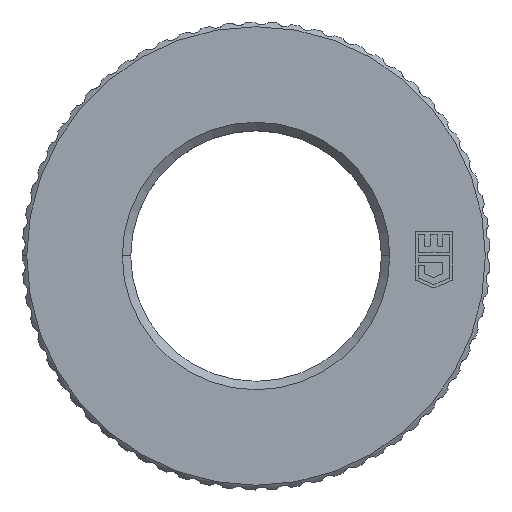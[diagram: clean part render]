
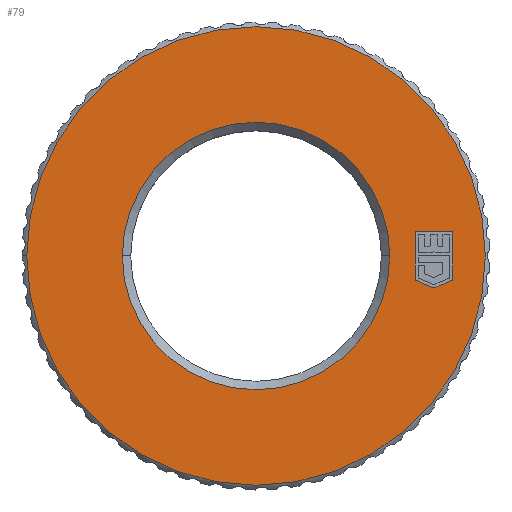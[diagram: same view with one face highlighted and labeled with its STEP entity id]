
A CAD part, top view. The second image highlights one B-rep face of the part: STEP entity #79.
In plain terms, the highlighted planar face has unit normal (0, 0, 1).
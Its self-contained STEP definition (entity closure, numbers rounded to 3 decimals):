
#2 = EDGE_CURVE ( 'NONE', #6477, #67, #2183, .T. ) ;
#3 = ORIENTED_EDGE ( 'NONE', *, *, #80, .T. ) ;
#63 = EDGE_LOOP ( 'NONE', ( #72, #3, #77, #6479, #6472 ) ) ;
#64 = ORIENTED_EDGE ( 'NONE', *, *, #491, .T. ) ;
#65 = ORIENTED_EDGE ( 'NONE', *, *, #71, .T. ) ;
#66 = EDGE_CURVE ( 'NONE', #67, #68, #2381, .T. ) ;
#67 = VERTEX_POINT ( 'NONE', #2377 ) ;
#68 = VERTEX_POINT ( 'NONE', #2376 ) ;
#69 = ORIENTED_EDGE ( 'NONE', *, *, #534, .T. ) ;
#70 = EDGE_LOOP ( 'NONE', ( #64, #65 ) ) ;
#71 = EDGE_CURVE ( 'NONE', #493, #498, #2375, .T. ) ;
#72 = ORIENTED_EDGE ( 'NONE', *, *, #66, .T. ) ;
#73 = ORIENTED_EDGE ( 'NONE', *, *, #74, .T. ) ;
#74 = EDGE_CURVE ( 'NONE', #499, #532, #2370, .T. ) ;
#75 = EDGE_LOOP ( 'NONE', ( #73, #69 ) ) ;
#76 = VERTEX_POINT ( 'NONE', #2365 ) ;
#77 = ORIENTED_EDGE ( 'NONE', *, *, #78, .T. ) ;
#78 = EDGE_CURVE ( 'NONE', #76, #6478, #2363, .T. ) ;
#79 = ADVANCED_FACE ( 'NONE', ( #2359, #2358, #2357 ), #2364, .F. ) ;
#80 = EDGE_CURVE ( 'NONE', #68, #76, #2417, .T. ) ;
#491 = EDGE_CURVE ( 'NONE', #498, #493, #3331, .T. ) ;
#493 = VERTEX_POINT ( 'NONE', #3322 ) ;
#498 = VERTEX_POINT ( 'NONE', #3314 ) ;
#499 = VERTEX_POINT ( 'NONE', #3313 ) ;
#532 = VERTEX_POINT ( 'NONE', #3376 ) ;
#534 = EDGE_CURVE ( 'NONE', #532, #499, #3439, .T. ) ;
#2180 = DIRECTION ( 'NONE',  ( -0.924, -0.383, 0. ) ) ;
#2181 = VECTOR ( 'NONE', #2180, 1000. ) ;
#2182 = CARTESIAN_POINT ( 'NONE',  ( 19., -3.41, 0. ) ) ;
#2183 = LINE ( 'NONE', #2182, #2181 ) ;
#2357 = FACE_BOUND ( 'NONE', #63, .T. ) ;
#2358 = FACE_BOUND ( 'NONE', #70, .T. ) ;
#2359 = FACE_OUTER_BOUND ( 'NONE', #75, .T. ) ;
#2360 = DIRECTION ( 'NONE',  ( 1., 0., 0. ) ) ;
#2361 = VECTOR ( 'NONE', #2360, 1000. ) ;
#2362 = CARTESIAN_POINT ( 'NONE',  ( 17., 2.59, 0. ) ) ;
#2363 = LINE ( 'NONE', #2362, #2361 ) ;
#2364 = PLANE ( 'NONE',  #2421 ) ;
#2365 = CARTESIAN_POINT ( 'NONE',  ( 17., 2.59, 0. ) ) ;
#2366 = DIRECTION ( 'NONE',  ( 1., 0., 0. ) ) ;
#2367 = DIRECTION ( 'NONE',  ( 0., 0., 1. ) ) ;
#2368 = CARTESIAN_POINT ( 'NONE',  ( 0., 0., 0. ) ) ;
#2369 = AXIS2_PLACEMENT_3D ( 'NONE', #2368, #2367, #2366 ) ;
#2370 = CIRCLE ( 'NONE', #2369, 24.5 ) ;
#2371 = DIRECTION ( 'NONE',  ( -1., 0., 0. ) ) ;
#2372 = DIRECTION ( 'NONE',  ( 0., 0., -1. ) ) ;
#2373 = CARTESIAN_POINT ( 'NONE',  ( 0., 0., 0. ) ) ;
#2374 = AXIS2_PLACEMENT_3D ( 'NONE', #2373, #2372, #2371 ) ;
#2375 = CIRCLE ( 'NONE', #2374, 14.29 ) ;
#2376 = CARTESIAN_POINT ( 'NONE',  ( 17., -2.582, 0. ) ) ;
#2377 = CARTESIAN_POINT ( 'NONE',  ( 19., -3.41, 0. ) ) ;
#2378 = DIRECTION ( 'NONE',  ( -0.924, 0.383, 0. ) ) ;
#2379 = VECTOR ( 'NONE', #2378, 1000. ) ;
#2380 = CARTESIAN_POINT ( 'NONE',  ( 19., -3.41, 0. ) ) ;
#2381 = LINE ( 'NONE', #2380, #2379 ) ;
#2414 = DIRECTION ( 'NONE',  ( 0., 1., 0. ) ) ;
#2415 = VECTOR ( 'NONE', #2414, 1000. ) ;
#2416 = CARTESIAN_POINT ( 'NONE',  ( 17., -2.582, 0. ) ) ;
#2417 = LINE ( 'NONE', #2416, #2415 ) ;
#2418 = DIRECTION ( 'NONE',  ( -1., 0., 0. ) ) ;
#2419 = DIRECTION ( 'NONE',  ( 0., 0., -1. ) ) ;
#2420 = CARTESIAN_POINT ( 'NONE',  ( 0., 0., 0. ) ) ;
#2421 = AXIS2_PLACEMENT_3D ( 'NONE', #2420, #2419, #2418 ) ;
#3313 = CARTESIAN_POINT ( 'NONE',  ( -24.5, 0., 0. ) ) ;
#3314 = CARTESIAN_POINT ( 'NONE',  ( 14.29, 0., 0. ) ) ;
#3322 = CARTESIAN_POINT ( 'NONE',  ( -14.29, 0., 0. ) ) ;
#3327 = DIRECTION ( 'NONE',  ( -1., 0., 0. ) ) ;
#3328 = DIRECTION ( 'NONE',  ( 0., 0., -1. ) ) ;
#3329 = CARTESIAN_POINT ( 'NONE',  ( 0., 0., 0. ) ) ;
#3330 = AXIS2_PLACEMENT_3D ( 'NONE', #3329, #3328, #3327 ) ;
#3331 = CIRCLE ( 'NONE', #3330, 14.29 ) ;
#3376 = CARTESIAN_POINT ( 'NONE',  ( 24.5, 0., 0. ) ) ;
#3435 = DIRECTION ( 'NONE',  ( 1., 0., 0. ) ) ;
#3436 = DIRECTION ( 'NONE',  ( 0., 0., 1. ) ) ;
#3437 = CARTESIAN_POINT ( 'NONE',  ( 0., 0., 0. ) ) ;
#3438 = AXIS2_PLACEMENT_3D ( 'NONE', #3437, #3436, #3435 ) ;
#3439 = CIRCLE ( 'NONE', #3438, 24.5 ) ;
#6179 = DIRECTION ( 'NONE',  ( 0., -1., 0. ) ) ;
#6180 = VECTOR ( 'NONE', #6179, 1000. ) ;
#6181 = CARTESIAN_POINT ( 'NONE',  ( 21., 2.59, 0. ) ) ;
#6182 = LINE ( 'NONE', #6181, #6180 ) ;
#6183 = CARTESIAN_POINT ( 'NONE',  ( 21., 2.59, 0. ) ) ;
#6184 = CARTESIAN_POINT ( 'NONE',  ( 21., -2.582, 0. ) ) ;
#6472 = ORIENTED_EDGE ( 'NONE', *, *, #2, .T. ) ;
#6477 = VERTEX_POINT ( 'NONE', #6184 ) ;
#6478 = VERTEX_POINT ( 'NONE', #6183 ) ;
#6479 = ORIENTED_EDGE ( 'NONE', *, *, #6480, .T. ) ;
#6480 = EDGE_CURVE ( 'NONE', #6478, #6477, #6182, .T. ) ;
